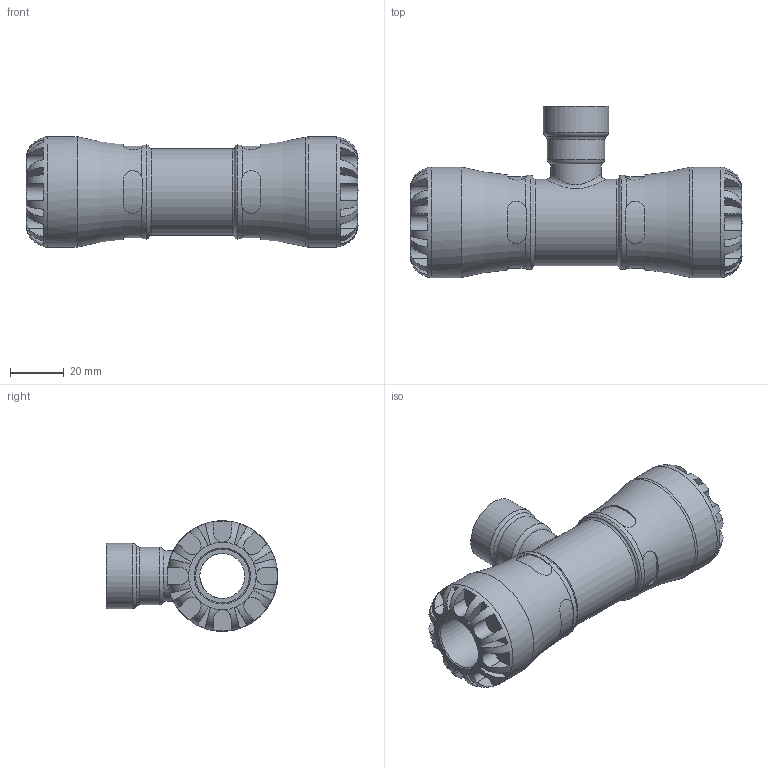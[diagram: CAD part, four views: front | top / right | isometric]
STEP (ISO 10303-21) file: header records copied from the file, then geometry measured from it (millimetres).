
FILE_DESCRIPTION(/* description */ ('PLASSON TEE WITH THREADED FEMALE OFFTAKE 20X1/2" SERIES 1'),/* implementation_level */ '2;1');
FILE_NAME(/* name */ 'C:\Dropbox\KIMPROJECTS-Inventor\99-16-3568-Processing\1014\101400020005_191400020005.ipt.stp',/* time_stamp */ '2017-01-30T09:06:11+02:00',/* author */ ('KIM'),/* organization */ (''),/* preprocessor_version */ 'ST-DEVELOPER v15.6',/* originating_system */ 'Autodesk Inventor 2015',/* authorisation */ '');
FILE_SCHEMA (('AUTOMOTIVE_DESIGN { 1 0 10303 214 3 1 1 }'));
Length unit declared in the file: millimetre
Products named in the file (1): 101400020005_191400020005
Bounding box: 123 x 63.5 x 41 mm (x, y, z)
Volume: 90686.7 mm3; surface area: 29304.1 mm2
Topology: 1 solids, 1 shells, 202 faces, 530 edges, 333 vertices
Faces by surface type: plane 118, cylinder 69, torus 12, cone 2, bspline 1
Full cylindrical faces by diameter (mm): 15.836 x1, 16.667 x1, 18.631 x2, 20 x2, 21.426 x1, 24.22 x1, 31.98 x1, 34.85 x2, 41 x2
Entity records: 7937 total; most frequent: CARTESIAN_POINT 3089, ORIENTED_EDGE 976, DIRECTION 926, EDGE_CURVE 488, AXIS2_PLACEMENT_3D 383, VERTEX_POINT 319, EDGE_LOOP 237, STYLED_ITEM 203
